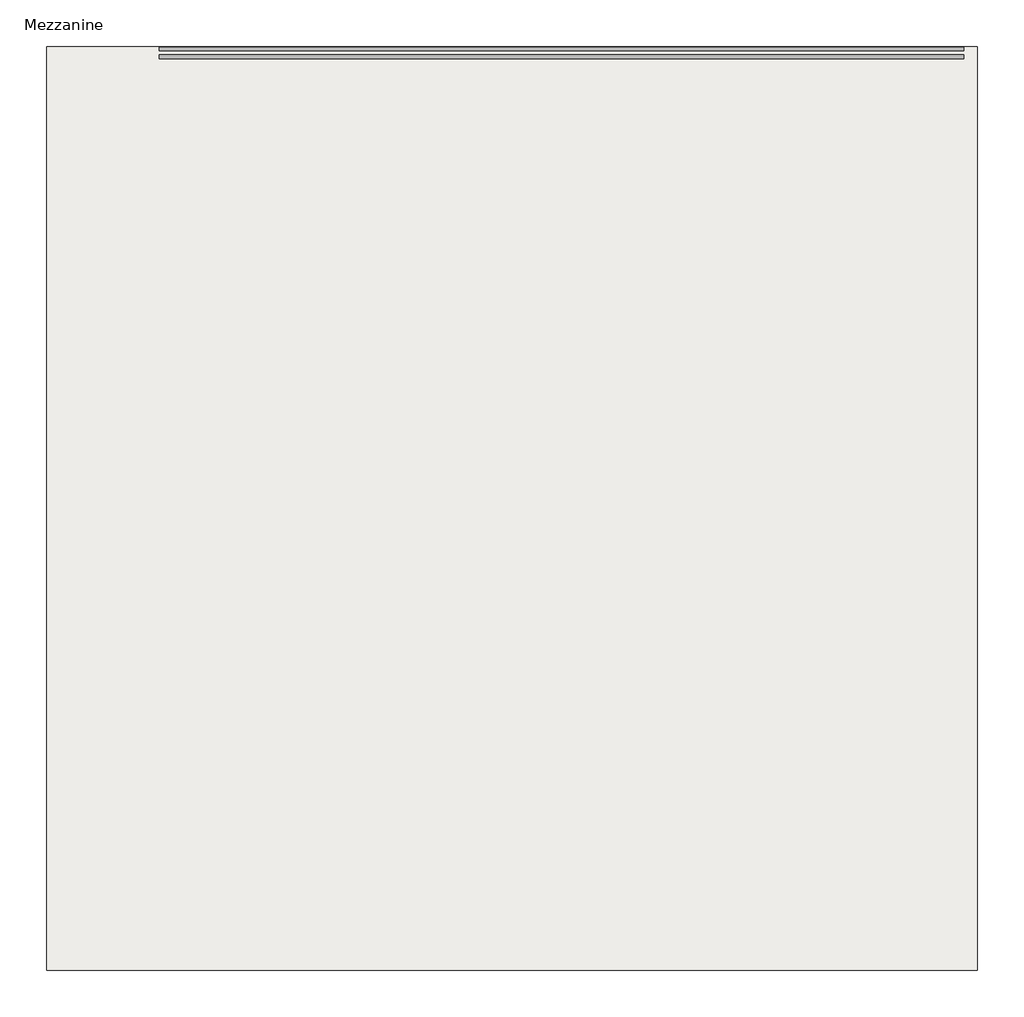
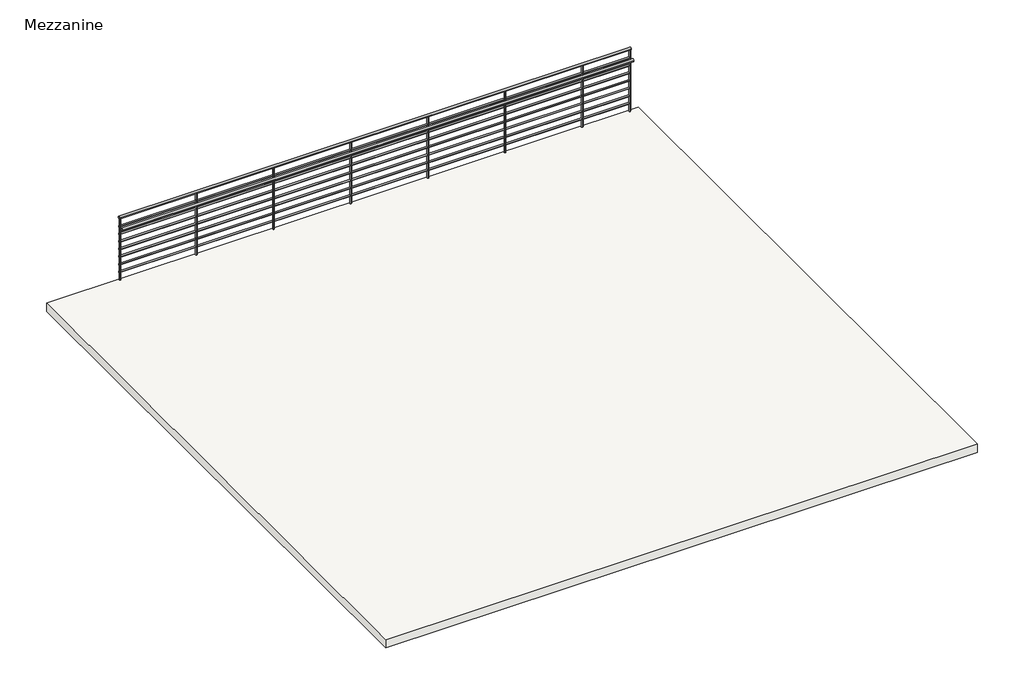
# One storey: 1 railing, 1 slab.
"""IFC4 building model written with IfcOpenShell, lengths in millimetres."""

import ifcopenshell
import ifcopenshell.guid

model = None  # the IFC model being written
_history = None  # IfcOwnerHistory: only IFC2X3 demands one
_inside = {}  # id of a spatial element -> (the spatial element, [elements in it])
_under = {}  # id of a project, library or spatial element -> (it, [spatial elements below it])
_declared = {}  # id of a project -> (the project, [libraries it declares])
_typed = {}  # id of a type object -> (the type object, [elements of that type])
_made_of = {}  # id of a material, layer set ... -> (it, [elements and type objects made of it])


def new_model(schema):
    """Start an empty IFC model of exactly this schema.

    Asked for "IFC4X3", IfcOpenShell would pick the latest addendum, in which some entities
    have other attributes; the version numbers below select the first issue.
    IFC2X3 requires an IfcOwnerHistory on every rooted entity: one is made here for all.
    """
    global model, _history
    if schema == "IFC4X3":
        model = ifcopenshell.file(schema_version=(4, 3, 0, 0))
    else:
        model = ifcopenshell.file(schema=schema)
    _inside.clear()
    _under.clear()
    _declared.clear()
    _typed.clear()
    _made_of.clear()
    _history = None
    if model.schema == "IFC2X3":
        org = make("IfcOrganization", Name="unknown")
        user = make(
            "IfcPersonAndOrganization",
            ThePerson=make("IfcPerson", FamilyName="unknown"),
            TheOrganization=org,
        )
        app = make(
            "IfcApplication",
            ApplicationDeveloper=org,
            Version="unknown",
            ApplicationFullName="unknown",
            ApplicationIdentifier="unknown",
        )
        _history = make(
            "IfcOwnerHistory",
            OwningUser=user,
            OwningApplication=app,
            ChangeAction="ADDED",
            CreationDate=0,
        )
    return model


def make(cls, **values):
    """One entity of the class cls with the attributes given. An attribute that is None is left unset."""
    return model.create_entity(
        cls, **{name: value for name, value in values.items() if value is not None}
    )


def rooted(cls, **values):
    """An entity with a GlobalId (a new one), such as an element, a storey or a relation."""
    return make(cls, GlobalId=ifcopenshell.guid.new(), OwnerHistory=_history, **values)


def si_unit(unit_type, name, prefix=None):
    """IfcSIUnit, for example si_unit("LENGTHUNIT", "METRE", prefix="MILLI")."""
    return make("IfcSIUnit", UnitType=unit_type, Prefix=prefix, Name=name)


def assignment(units):
    """IfcUnitAssignment: the units of a project."""
    return None if units is None else make("IfcUnitAssignment", Units=units)


def point(xyz):
    """IfcCartesianPoint."""
    return None if xyz is None else make("IfcCartesianPoint", Coordinates=xyz)


def direction(xyz):
    """IfcDirection."""
    return None if xyz is None else make("IfcDirection", DirectionRatios=xyz)


def frame(location, z_axis=None, x_axis=None):
    """IfcAxis2Placement3D, a coordinate frame: its origin and axes. An axis left out is left unset."""
    return make(
        "IfcAxis2Placement3D",
        Location=point(location),
        Axis=direction(z_axis),
        RefDirection=direction(x_axis),
    )


def frame_2d(location, x_axis=None):
    """IfcAxis2Placement2D, a coordinate frame in the plane: its origin and x axis."""
    return make(
        "IfcAxis2Placement2D", Location=point(location), RefDirection=direction(x_axis)
    )


def origin():
    """The frame at (0, 0, 0) with its axes left unset."""
    return frame((0.0, 0.0, 0.0))


def place(relative_to, where):
    """IfcLocalPlacement: puts the frame where relative to a parent placement (None: the world)."""
    return make(
        "IfcLocalPlacement", PlacementRelTo=relative_to, RelativePlacement=where
    )


def context(
    kind, dimensions, precision=None, world=None, true_north=None, identifier=None
):
    """IfcGeometricRepresentationContext, for example the 3D "Model" context."""
    return make(
        "IfcGeometricRepresentationContext",
        ContextIdentifier=identifier,
        ContextType=kind,
        CoordinateSpaceDimension=dimensions,
        Precision=precision,
        WorldCoordinateSystem=world,
        TrueNorth=true_north,
    )


def project(units=None, contexts=None):
    """IfcProject with its units and contexts."""
    return rooted(
        "IfcProject",
        Name="project",
        RepresentationContexts=contexts,
        UnitsInContext=assignment(units),
    )


def spatial(cls, under=None, at=None, **own):
    """A site, building, storey or space (cls), placed at a placement, below another one or the project."""
    s = rooted(cls, ObjectPlacement=at, **own)
    if under is not None:
        _under.setdefault(under.id(), (under, []))[1].append(s)
    return s


def polyline(points):
    """IfcPolyline through the points."""
    return make("IfcPolyline", Points=[point(p) for p in points])


def circle_curve(where, radius):
    """IfcCircle in the frame where."""
    return make("IfcCircle", Position=where, Radius=radius)


def trimmed(basis, trim1, trim2, sense, master):
    """IfcTrimmedCurve: the piece of a basis curve between two trims."""
    return make(
        "IfcTrimmedCurve",
        BasisCurve=basis,
        Trim1=trim1,
        Trim2=trim2,
        SenseAgreement=sense,
        MasterRepresentation=master,
    )


def segment(curve, same_sense, transition):
    """IfcCompositeCurveSegment."""
    return make(
        "IfcCompositeCurveSegment",
        Transition=transition,
        SameSense=same_sense,
        ParentCurve=curve,
    )


def composite_curve(segments, self_intersect=None):
    """IfcCompositeCurve: segments joined end to end."""
    return make("IfcCompositeCurve", Segments=segments, SelfIntersect=self_intersect)


def outline(outer, holes=None, kind="AREA"):
    """IfcArbitraryClosedProfileDef: a profile drawn as a closed curve; with holes, ...WithVoids."""
    if holes is None:
        return make("IfcArbitraryClosedProfileDef", ProfileType=kind, OuterCurve=outer)
    return make(
        "IfcArbitraryProfileDefWithVoids",
        ProfileType=kind,
        OuterCurve=outer,
        InnerCurves=holes,
    )


def extrude(swept, where, along, depth):
    """IfcExtrudedAreaSolid: the profile swept, set in the frame where, extruded along a direction by depth."""
    return make(
        "IfcExtrudedAreaSolid",
        SweptArea=swept,
        Position=where,
        ExtrudedDirection=direction(along),
        Depth=depth,
    )


def shape(context_of_items, identifier, shape_type, items):
    """IfcShapeRepresentation: the items that make up one representation, for example the "Body"."""
    return make(
        "IfcShapeRepresentation",
        ContextOfItems=context_of_items,
        RepresentationIdentifier=identifier,
        RepresentationType=shape_type,
        Items=items,
    )


def source(mapping_origin, context_of_items, identifier, shape_type, items):
    """IfcRepresentationMap: a shape defined once, which mapped items show again and again."""
    return make(
        "IfcRepresentationMap",
        MappingOrigin=mapping_origin,
        MappedRepresentation=shape(context_of_items, identifier, shape_type, items),
    )


def transform(
    local_origin,
    x_axis=None,
    y_axis=None,
    z_axis=None,
    scale=None,
    scale2=None,
    scale3=None,
    uniform=True,
):
    """IfcCartesianTransformationOperator3D, or its non-uniform kind. x_axis, y_axis, z_axis: its Axis1, 2, 3."""
    if uniform:
        return make(
            "IfcCartesianTransformationOperator3D",
            Axis1=direction(x_axis),
            Axis2=direction(y_axis),
            LocalOrigin=point(local_origin),
            Scale=scale,
            Axis3=direction(z_axis),
        )
    return make(
        "IfcCartesianTransformationOperator3DnonUniform",
        Axis1=direction(x_axis),
        Axis2=direction(y_axis),
        LocalOrigin=point(local_origin),
        Scale=scale,
        Axis3=direction(z_axis),
        Scale2=scale2,
        Scale3=scale3,
    )


def mapped(mapping_source, mapping_target):
    """IfcMappedItem: shows the shape of a source again, moved by a transform."""
    return make(
        "IfcMappedItem", MappingSource=mapping_source, MappingTarget=mapping_target
    )


def made_of(thing, what):
    """Note that an element or type object is made of a material, layer set ...; save() writes the relation."""
    if what is not None:
        _made_of.setdefault(what.id(), (what, []))[1].append(thing)
    return thing


def element(
    cls,
    number,
    at=None,
    inside=None,
    cuts=None,
    type_object=None,
    material=None,
    context=None,
    identifier="Body",
    shape_type=None,
    held_by="IfcProductDefinitionShape",
    body=None,
    shapes=None,
    **own,
):
    """One element of the class cls, such as IfcWall. Its Tag is "e" and its number.

    at: its placement. inside: the storey or other place that contains it. cuts: it is an
    opening in that element (IfcRelVoidsElement). A single representation is given by context,
    identifier, shape_type and body (its items); several are given by shapes. held_by: the class
    of the entity that holds the representations. save() writes the other relations.
    """
    e = rooted(cls, Tag="e%d" % number, ObjectPlacement=at, **own)
    if body is not None:
        shapes = [shape(context, identifier, shape_type, body)]
    if shapes is not None:
        e.Representation = make(held_by, Representations=shapes)
    if inside is not None:
        _inside.setdefault(inside.id(), (inside, []))[1].append(e)
    if cuts is not None:
        rooted(
            "IfcRelVoidsElement", RelatingBuildingElement=cuts, RelatedOpeningElement=e
        )
    if type_object is not None:
        _typed.setdefault(type_object.id(), (type_object, []))[1].append(e)
    return made_of(e, material)


def aggregate(whole, parts):
    """IfcRelAggregates: a whole, such as a stair, and the parts it consists of."""
    return rooted("IfcRelAggregates", RelatingObject=whole, RelatedObjects=parts)


def save(model, path):
    """Write the relations noted so far, then the file.

    IfcRelAggregates (storeys below a building ...), IfcRelContainedInSpatialStructure (elements
    in a storey), IfcRelDefinesByType, IfcRelAssociatesMaterial and IfcRelDeclares: one each for
    every whole, place, type object, material and project.
    """
    for whole, parts in _under.values():
        aggregate(whole, parts)
    for where, things in _inside.values():
        rooted(
            "IfcRelContainedInSpatialStructure",
            RelatedElements=things,
            RelatingStructure=where,
        )
    for kind, things in _typed.values():
        rooted("IfcRelDefinesByType", RelatedObjects=things, RelatingType=kind)
    for what, things in _made_of.values():
        rooted("IfcRelAssociatesMaterial", RelatedObjects=things, RelatingMaterial=what)
    for by, libraries in _declared.values():
        rooted("IfcRelDeclares", RelatingContext=by, RelatedDefinitions=libraries)
    model.write(path)


def guardrail_pipe_171f1288(model_context):
    return source(origin(), model_context, "Body", "SweptSolid", [
        extrude(outline(composite_curve([segment(trimmed(circle_curve(frame_2d((-540.1188057, 4400.55)), 19.05), [point((-559.1688057, 4400.55))], [point((-521.0688057, 4400.55))], False, "CARTESIAN"), True, "CONTINUOUS"), segment(trimmed(circle_curve(frame_2d((-540.1188057, 4400.55)), 19.05), [point((-521.0688057, 4400.55))], [point((-559.1688057, 4400.55))], False, "CARTESIAN"), True, "CONTINUOUS")], self_intersect=False)), frame((-21100.2602721, 0.0, 0.0), z_axis=(1.0, 0.0, 0.0), x_axis=(0.0, 1.0, 0.0)), (0.0, 0.0, 1.0), 8077.2),
        extrude(outline(composite_curve([segment(trimmed(circle_curve(frame_2d((-540.1188057, 4254.5)), 12.7), [point((-552.8188057, 4254.5))], [point((-527.4188057, 4254.5))], False, "CARTESIAN"), True, "CONTINUOUS"), segment(trimmed(circle_curve(frame_2d((-540.1188057, 4254.5)), 12.7), [point((-527.4188057, 4254.5))], [point((-552.8188057, 4254.5))], False, "CARTESIAN"), True, "CONTINUOUS")], self_intersect=False)), frame((-21100.2602721, 0.0, 0.0), z_axis=(1.0, 0.0, 0.0), x_axis=(0.0, 1.0, 0.0)), (0.0, 0.0, 1.0), 8077.2),
        extrude(outline(composite_curve([segment(trimmed(circle_curve(frame_2d((-616.3188057, 4248.15)), 19.05), [point((-635.3688057, 4248.15))], [point((-597.2688057, 4248.15))], False, "CARTESIAN"), True, "CONTINUOUS"), segment(trimmed(circle_curve(frame_2d((-616.3188057, 4248.15)), 19.05), [point((-597.2688057, 4248.15))], [point((-635.3688057, 4248.15))], False, "CARTESIAN"), True, "CONTINUOUS")], self_intersect=False)), frame((-21100.2602721, 0.0, 0.0), z_axis=(1.0, 0.0, 0.0), x_axis=(0.0, 1.0, 0.0)), (0.0, 0.0, 1.0), 8077.2),
        extrude(outline(composite_curve([segment(trimmed(circle_curve(frame_2d((-540.1188057, 4127.5)), 12.7), [point((-552.8188057, 4127.5))], [point((-527.4188057, 4127.5))], False, "CARTESIAN"), True, "CONTINUOUS"), segment(trimmed(circle_curve(frame_2d((-540.1188057, 4127.5)), 12.7), [point((-527.4188057, 4127.5))], [point((-552.8188057, 4127.5))], False, "CARTESIAN"), True, "CONTINUOUS")], self_intersect=False)), frame((-21100.2602721, 0.0, 0.0), z_axis=(1.0, 0.0, 0.0), x_axis=(0.0, 1.0, 0.0)), (0.0, 0.0, 1.0), 8077.2),
        extrude(outline(composite_curve([segment(trimmed(circle_curve(frame_2d((-540.1188057, 4000.5)), 12.7), [point((-552.8188057, 4000.5))], [point((-527.4188057, 4000.5))], False, "CARTESIAN"), True, "CONTINUOUS"), segment(trimmed(circle_curve(frame_2d((-540.1188057, 4000.5)), 12.7), [point((-527.4188057, 4000.5))], [point((-552.8188057, 4000.5))], False, "CARTESIAN"), True, "CONTINUOUS")], self_intersect=False)), frame((-21100.2602721, 0.0, 0.0), z_axis=(1.0, 0.0, 0.0), x_axis=(0.0, 1.0, 0.0)), (0.0, 0.0, 1.0), 8077.2),
        extrude(outline(composite_curve([segment(trimmed(circle_curve(frame_2d((-540.1188057, 3873.5)), 12.7), [point((-552.8188057, 3873.5))], [point((-527.4188057, 3873.5))], False, "CARTESIAN"), True, "CONTINUOUS"), segment(trimmed(circle_curve(frame_2d((-540.1188057, 3873.5)), 12.7), [point((-527.4188057, 3873.5))], [point((-552.8188057, 3873.5))], False, "CARTESIAN"), True, "CONTINUOUS")], self_intersect=False)), frame((-21100.2602721, 0.0, 0.0), z_axis=(1.0, 0.0, 0.0), x_axis=(0.0, 1.0, 0.0)), (0.0, 0.0, 1.0), 8077.2),
        extrude(outline(composite_curve([segment(trimmed(circle_curve(frame_2d((-540.1188057, 3746.5)), 12.7), [point((-552.8188057, 3746.5))], [point((-527.4188057, 3746.5))], False, "CARTESIAN"), True, "CONTINUOUS"), segment(trimmed(circle_curve(frame_2d((-540.1188057, 3746.5)), 12.7), [point((-527.4188057, 3746.5))], [point((-552.8188057, 3746.5))], False, "CARTESIAN"), True, "CONTINUOUS")], self_intersect=False)), frame((-21100.2602721, 0.0, 0.0), z_axis=(1.0, 0.0, 0.0), x_axis=(0.0, 1.0, 0.0)), (0.0, 0.0, 1.0), 8077.2),
        extrude(outline(composite_curve([segment(trimmed(circle_curve(frame_2d((-540.1188057, 3619.5)), 12.7), [point((-552.8188057, 3619.5))], [point((-527.4188057, 3619.5))], False, "CARTESIAN"), True, "CONTINUOUS"), segment(trimmed(circle_curve(frame_2d((-540.1188057, 3619.5)), 12.7), [point((-527.4188057, 3619.5))], [point((-552.8188057, 3619.5))], False, "CARTESIAN"), True, "CONTINUOUS")], self_intersect=False)), frame((-21100.2602721, 0.0, 0.0), z_axis=(1.0, 0.0, 0.0), x_axis=(0.0, 1.0, 0.0)), (0.0, 0.0, 1.0), 8077.2),
        extrude(outline(composite_curve([segment(trimmed(circle_curve(frame_2d((-540.1188057, 3492.5)), 12.7), [point((-552.8188057, 3492.5))], [point((-527.4188057, 3492.5))], False, "CARTESIAN"), True, "CONTINUOUS"), segment(trimmed(circle_curve(frame_2d((-540.1188057, 3492.5)), 12.7), [point((-527.4188057, 3492.5))], [point((-552.8188057, 3492.5))], False, "CARTESIAN"), True, "CONTINUOUS")], self_intersect=False)), frame((-21100.2602721, 0.0, 0.0), z_axis=(1.0, 0.0, 0.0), x_axis=(0.0, 1.0, 0.0)), (0.0, 0.0, 1.0), 8077.2),
        extrude(outline(composite_curve([segment(trimmed(circle_curve(frame_2d((-13785.0602721, -540.1188057)), 12.7), [point((-13785.0602721, -552.8188057))], [point((-13785.0602721, -527.4188057))], False, "CARTESIAN"), True, "CONTINUOUS"), segment(trimmed(circle_curve(frame_2d((-13785.0602721, -540.1188057)), 12.7), [point((-13785.0602721, -527.4188057))], [point((-13785.0602721, -552.8188057))], False, "CARTESIAN"), True, "CONTINUOUS")], self_intersect=False)), frame((0.0, 0.0, 3352.8), z_axis=(0.0, 0.0, 1.0), x_axis=(1.0, 0.0, 0.0)), (0.0, 0.0, 1.0), 1028.7),
        extrude(outline(composite_curve([segment(trimmed(circle_curve(frame_2d((-15004.2602721, -540.1188057)), 12.7), [point((-15004.2602721, -552.8188057))], [point((-15004.2602721, -527.4188057))], False, "CARTESIAN"), True, "CONTINUOUS"), segment(trimmed(circle_curve(frame_2d((-15004.2602721, -540.1188057)), 12.7), [point((-15004.2602721, -527.4188057))], [point((-15004.2602721, -552.8188057))], False, "CARTESIAN"), True, "CONTINUOUS")], self_intersect=False)), frame((0.0, 0.0, 3352.8), z_axis=(0.0, 0.0, 1.0), x_axis=(1.0, 0.0, 0.0)), (0.0, 0.0, 1.0), 1028.7),
        extrude(outline(composite_curve([segment(trimmed(circle_curve(frame_2d((-16223.4602721, -540.1188057)), 12.7), [point((-16223.4602721, -552.8188057))], [point((-16223.4602721, -527.4188057))], False, "CARTESIAN"), True, "CONTINUOUS"), segment(trimmed(circle_curve(frame_2d((-16223.4602721, -540.1188057)), 12.7), [point((-16223.4602721, -527.4188057))], [point((-16223.4602721, -552.8188057))], False, "CARTESIAN"), True, "CONTINUOUS")], self_intersect=False)), frame((0.0, 0.0, 3352.8), z_axis=(0.0, 0.0, 1.0), x_axis=(1.0, 0.0, 0.0)), (0.0, 0.0, 1.0), 1028.7),
        extrude(outline(composite_curve([segment(trimmed(circle_curve(frame_2d((-17442.6602721, -540.1188057)), 12.7), [point((-17442.6602721, -552.8188057))], [point((-17442.6602721, -527.4188057))], False, "CARTESIAN"), True, "CONTINUOUS"), segment(trimmed(circle_curve(frame_2d((-17442.6602721, -540.1188057)), 12.7), [point((-17442.6602721, -527.4188057))], [point((-17442.6602721, -552.8188057))], False, "CARTESIAN"), True, "CONTINUOUS")], self_intersect=False)), frame((0.0, 0.0, 3352.8), z_axis=(0.0, 0.0, 1.0), x_axis=(1.0, 0.0, 0.0)), (0.0, 0.0, 1.0), 1028.7),
        extrude(outline(composite_curve([segment(trimmed(circle_curve(frame_2d((-18661.8602721, -540.1188057)), 12.7), [point((-18661.8602721, -552.8188057))], [point((-18661.8602721, -527.4188057))], False, "CARTESIAN"), True, "CONTINUOUS"), segment(trimmed(circle_curve(frame_2d((-18661.8602721, -540.1188057)), 12.7), [point((-18661.8602721, -527.4188057))], [point((-18661.8602721, -552.8188057))], False, "CARTESIAN"), True, "CONTINUOUS")], self_intersect=False)), frame((0.0, 0.0, 3352.8), z_axis=(0.0, 0.0, 1.0), x_axis=(1.0, 0.0, 0.0)), (0.0, 0.0, 1.0), 1028.7),
        extrude(outline(composite_curve([segment(trimmed(circle_curve(frame_2d((-19881.0602721, -540.1188057)), 12.7), [point((-19881.0602721, -552.8188057))], [point((-19881.0602721, -527.4188057))], False, "CARTESIAN"), True, "CONTINUOUS"), segment(trimmed(circle_curve(frame_2d((-19881.0602721, -540.1188057)), 12.7), [point((-19881.0602721, -527.4188057))], [point((-19881.0602721, -552.8188057))], False, "CARTESIAN"), True, "CONTINUOUS")], self_intersect=False)), frame((0.0, 0.0, 3352.8), z_axis=(0.0, 0.0, 1.0), x_axis=(1.0, 0.0, 0.0)), (0.0, 0.0, 1.0), 1028.7),
        extrude(outline(composite_curve([segment(trimmed(circle_curve(frame_2d((-13035.7602721, -540.1188057)), 12.7), [point((-13035.7602721, -552.8188057))], [point((-13035.7602721, -527.4188057))], False, "CARTESIAN"), True, "CONTINUOUS"), segment(trimmed(circle_curve(frame_2d((-13035.7602721, -540.1188057)), 12.7), [point((-13035.7602721, -527.4188057))], [point((-13035.7602721, -552.8188057))], False, "CARTESIAN"), True, "CONTINUOUS")], self_intersect=False)), frame((0.0, 0.0, 3352.8), z_axis=(0.0, 0.0, 1.0), x_axis=(1.0, 0.0, 0.0)), (0.0, 0.0, 1.0), 1028.7),
        extrude(outline(composite_curve([segment(trimmed(circle_curve(frame_2d((-21087.5602721, -540.1188057)), 12.7), [point((-21087.5602721, -552.8188057))], [point((-21087.5602721, -527.4188057))], False, "CARTESIAN"), True, "CONTINUOUS"), segment(trimmed(circle_curve(frame_2d((-21087.5602721, -540.1188057)), 12.7), [point((-21087.5602721, -527.4188057))], [point((-21087.5602721, -552.8188057))], False, "CARTESIAN"), True, "CONTINUOUS")], self_intersect=False)), frame((0.0, 0.0, 3352.8), z_axis=(0.0, 0.0, 1.0), x_axis=(1.0, 0.0, 0.0)), (0.0, 0.0, 1.0), 1028.7),
    ])


model = new_model("IFC4")

# Units and contexts
model_context = context("Model", 3, world=origin())
ifc_project = project(units=[si_unit("LENGTHUNIT", "METRE", prefix="MILLI")], contexts=[model_context])

# Site, building, storey
site = spatial("IfcSite", under=ifc_project)
building = spatial("IfcBuilding", under=site)
storey = spatial("IfcBuildingStorey", under=building, Name="Mezzanine", Elevation=3352.8)

# Railing
placement = place(None, origin())
guardrail_pipe_shape = guardrail_pipe_171f1288(model_context)
element("IfcRailing", 1, ObjectType="Guardrail - Pipe", at=placement, inside=storey, context=model_context, shape_type="MappedRepresentation", body=[
    mapped(guardrail_pipe_shape, transform((0.0, 0.0, 0.0), x_axis=(1.0, 0.0, 0.0), y_axis=(0.0, 1.0, 0.0), z_axis=(0.0, 0.0, 1.0))),
])

# Slab
element("IfcSlab", 2, ObjectType="Mezzanine Floor", at=placement, inside=storey, context=model_context, shape_type="SweptSolid", body=[
    extrude(outline(polyline([(-22232.1477721, -514.7188057), (-12883.3602721, -514.7188057), (-12883.3602721, -9792.8625557), (-22232.1477721, -9792.8625557), (-22232.1477721, -514.7188057)])), frame((0.0, 0.0, 3213.1), z_axis=(0.0, 0.0, 1.0), x_axis=(1.0, 0.0, 0.0)), (0.0, 0.0, 1.0), 139.7),
])

save(model, "model.ifc")
